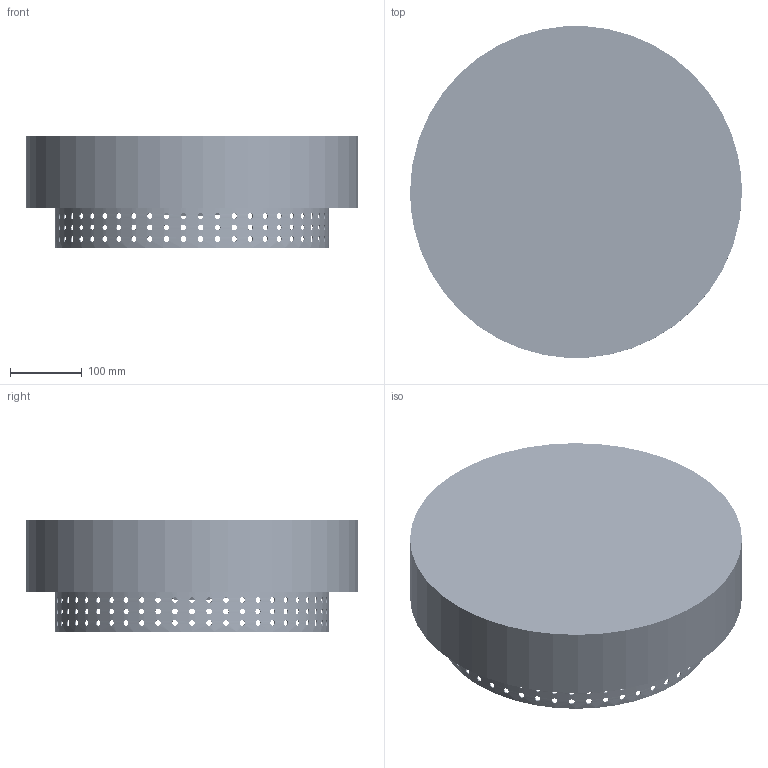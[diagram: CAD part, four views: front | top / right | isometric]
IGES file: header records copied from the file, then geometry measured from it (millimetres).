
Global section: file name: Z:\; native system: Rhinoceros ( Nov 10 2025 ); preprocessor: Trout Lake IGES 012 Nov 10 2025; date: 260601.082647; units: millimetre
Bounding box: 464.09 x 463.22 x 155.21 mm (x, y, z)
Surface area: 1070751.2 mm2 (no closed solid volume)
Topology: 0 solids, 0 shells, 423 faces, 7738 edges, 7335 vertices
Faces by surface type: bspline 423
